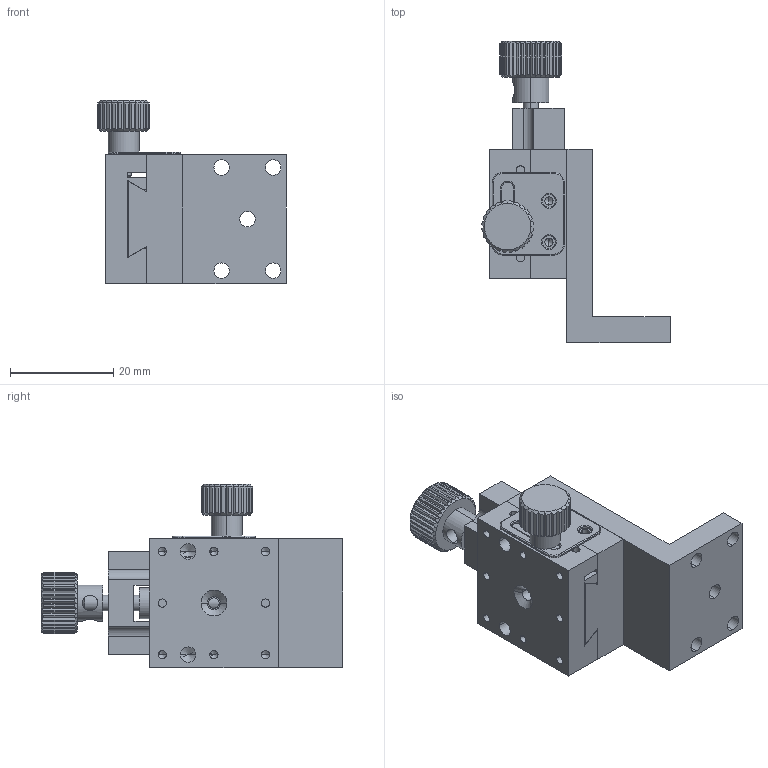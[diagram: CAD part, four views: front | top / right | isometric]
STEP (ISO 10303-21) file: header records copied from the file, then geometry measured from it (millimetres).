
FILE_DESCRIPTION (( 'STEP AP203' ), '1' );
FILE_NAME ('JD3-25S.STEP', '2013-12-24T02:05:58', ( 'MTT' ), ( '' ), 'SwSTEP 2.0', 'SolidWorks 2013', '' );
FILE_SCHEMA (( 'CONFIG_CONTROL_DESIGN' ));
Length unit declared in the file: millimetre
Products named in the file (11): Screw Head-L; Check Plate; Check Bolt; Z Braket; JD1-25S-L; Bottom Plate-L; JD3-25S; Top Plate-L; Screw-L; Screw Guide-L; Gripper-L
Assembly tree (10 placements, depth 3):
  JD3-25S
    Z Braket
    JD1-25S-L
      Bottom Plate-L
      Top Plate-L
      Screw-L
      Screw Guide-L
      Gripper-L
      Screw Head-L
      Check Plate
      Check Bolt
Bounding box: 36.49 x 58.5 x 35.5 mm (x, y, z)
Volume: 16463.2 mm3; surface area: 12817.9 mm2
Topology: 9 solids, 9 shells, 482 faces, 1286 edges, 810 vertices
Faces by surface type: cylinder 212, plane 201, cone 58, torus 11
Entity records: 16668 total; most frequent: CARTESIAN_POINT 3715, ORIENTED_EDGE 2492, DIRECTION 2415, EDGE_CURVE 1246, AXIS2_PLACEMENT_3D 940, VERTEX_POINT 810, EDGE_LOOP 574, LINE 535
